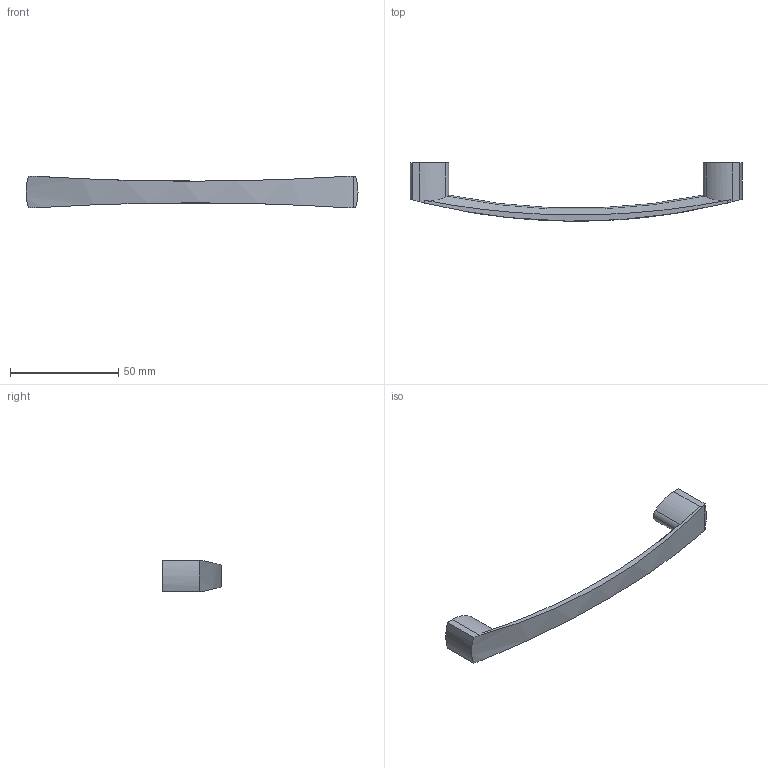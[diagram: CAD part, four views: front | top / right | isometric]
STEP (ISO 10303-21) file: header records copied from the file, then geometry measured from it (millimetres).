
FILE_DESCRIPTION( ( '' ), '1' );
FILE_NAME( 'D:/1.AUTOCAD EXPORT/Group 10/sheet_10_1/9113430.stp', '2013-10-18T09:02:27', ( '' ), ( '' ), ' ', ' ', ' ' );
FILE_SCHEMA( ( 'automotive_design' ) );
Length unit declared in the file: millimetre
Products named in the file (1): 1
Bounding box: 153.23 x 26.94 x 14.59 mm (x, y, z)
Volume: 13740.9 mm3; surface area: 6597.9 mm2
Topology: 1 solids, 1 shells, 30 faces, 82 edges, 56 vertices
Faces by surface type: cylinder 18, plane 8, torus 2, cone 2
Entity records: 2177 total; most frequent: CARTESIAN_POINT 489, STYLED_ITEM 169, PRESENTATION_STYLE_ASSIGNMENT 169, COLOUR_RGB 169, ORIENTED_EDGE 164, DIRECTION 139, EDGE_CURVE 82, CURVE_STYLE 82
